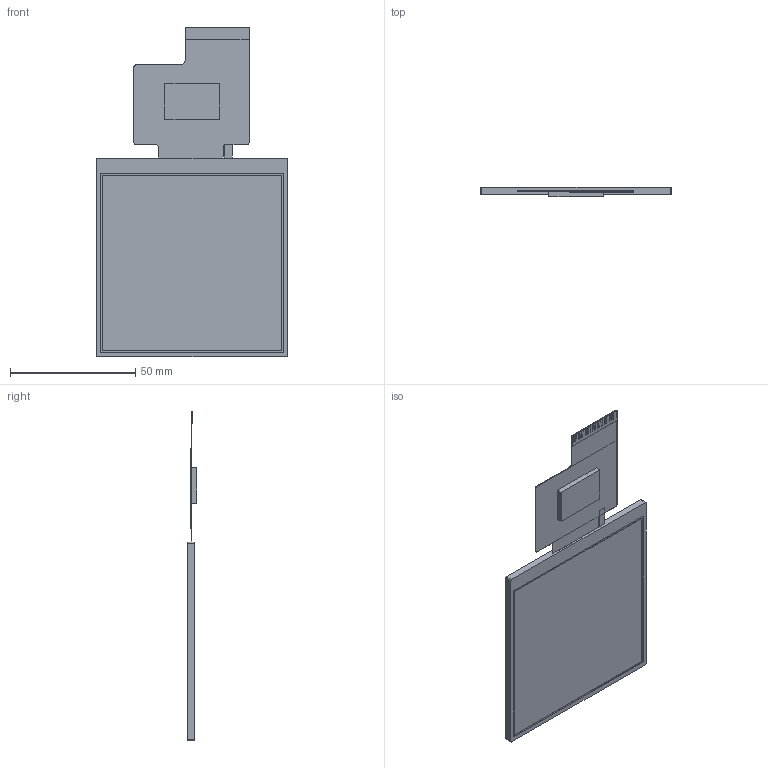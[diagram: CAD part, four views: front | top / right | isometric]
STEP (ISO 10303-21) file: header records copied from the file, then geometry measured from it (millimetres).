
FILE_DESCRIPTION (( 'STEP AP214' ), '1' );
FILE_NAME ('DMG48480F040_01WN 3D.STEP', '2023-09-14T06:46:19', ( '' ), ( 'Microsoft' ), 'SwSTEP 2.0', 'SolidWorks 2017', '' );
FILE_SCHEMA (( 'AUTOMOTIVE_DESIGN' ));
Length unit declared in the file: millimetre
Products named in the file (1): DMG48480F040_01WN  3D
Bounding box: 76.4 x 3.78 x 131.68 mm (x, y, z)
Volume: 17625.4 mm3; surface area: 20470.3 mm2
Topology: 4 solids, 4 shells, 313 faces, 761 edges, 510 vertices
Faces by surface type: plane 296, cylinder 17
Entity records: 12521 total; most frequent: CARTESIAN_POINT 1585, ORIENTED_EDGE 1522, DIRECTION 1427, EDGE_CURVE 761, VECTOR 723, LINE 723, VERTEX_POINT 510, EDGE_LOOP 367
